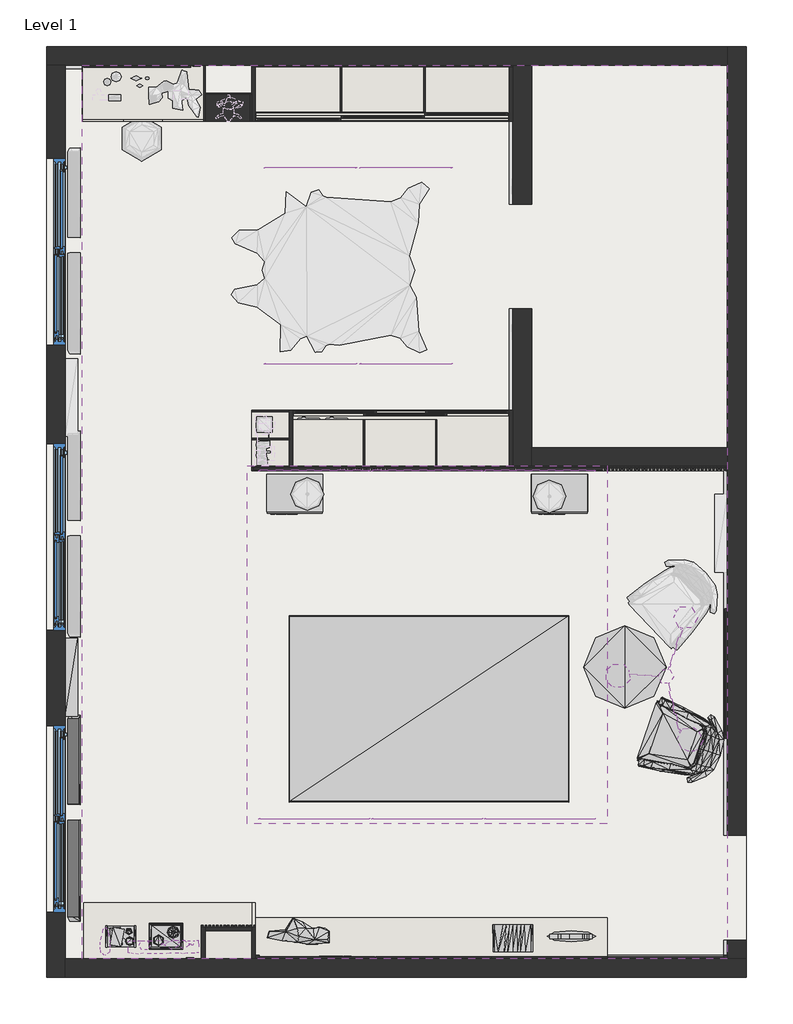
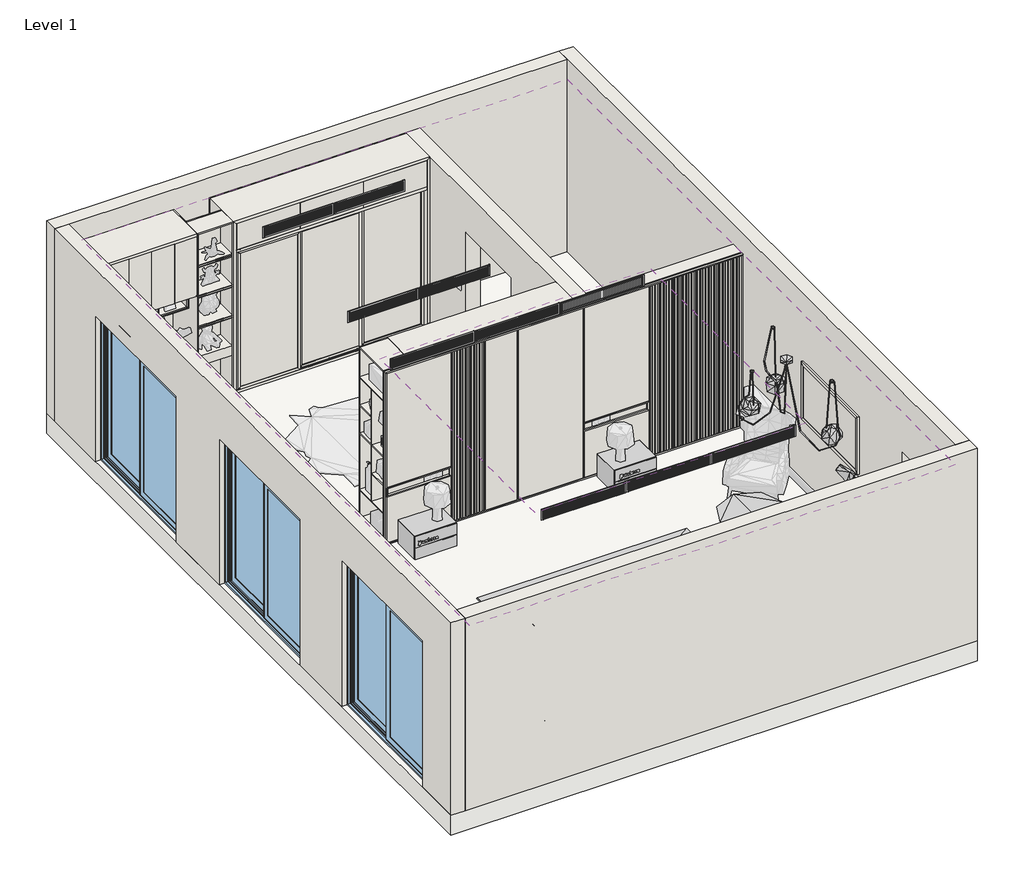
# One storey, part 1 of 3: 22 geographic elements, 11 proxies, 7 walls, 3 windows, 2 coverings, 1 furniture element, 1 slab.
"""IFC4 building model written with IfcOpenShell, lengths in millimetres."""

from ifc_helpers import new_model, si_unit, frame, origin, origin_with_axes, place, context, project, spatial, polyline, outline, extrude, faceted_brep, transform, mapped, element, save
from components import generic_models_adb6d911, inlet_grid_ga15_f24b3901, inlet_grid_ga15_04165da6, inlet_grid_ga15_2_3eb42ee2, inlet_grid_ga15_2_d9a18460, furniture_1_furniture_1_7f8864ea, geographic_element_60de37d3, geographic_element_de3b21ac, geographic_element_d5cf713a, geographic_element_6166db94, geographic_element_e5f93e43, geographic_element_2e74eb4a, enscape_assetdefinition_armchair_14_enscape_assetdefinition_c5dd8c47, enscape_assetdefinition_books_11_2_enscape_assetdefinition_afcb8159, enscape_assetdefinition_curtain_09_1_enscape_assetdefinition_daeb34b5, enscape_assetdefinition_heater_1_enscape_assetdefinition_d009f5ff, enscape_assetdefinition_interior_plant_63_enscape_0fecf210, enscape_assetdefinition_light_switch_02_1_enscape_37d4c2cf, enscape_assetdefinition_open_book_enscape_assetdefinition_e06b1bfc, enscape_assetdefinition_pendant_lamp_33_1_enscape_d2cf4ff0, enscape_assetdefinition_power_socket_1_enscape_57b8c8f3, enscape_assetdefinition_round_side_table_07_1_enscape_1fe8cf10, enscape_assetdefinition_rug_08_enscape_assetdefinition_rug_6e1646d1, walls_1_walls_1_83899cc1, walls_1_walls_1_9100b498, walls_1_walls_1_aaefc54a, window_d831f5fb

model = new_model("IFC4")

# Units and contexts
model_context = context("Model", 3, world=origin())
ifc_project = project(units=[si_unit("LENGTHUNIT", "METRE", prefix="MILLI")], contexts=[model_context])

# Site, building, storey
site = spatial("IfcSite", under=ifc_project)
building = spatial("IfcBuilding", under=site)
storey = spatial("IfcBuildingStorey", under=building, Name="Level 1", Elevation=0.0)

# Proxies
placement = place(None, origin())
generic_models_shape = generic_models_adb6d911(model_context)
element("IfcBuildingElementProxy", 1, Name="ArcPro Statue : ArcPro Statue", ObjectType="ArcPro Statue : ArcPro Statue", at=placement, inside=storey, context=model_context, shape_type="MappedRepresentation", body=[
    mapped(generic_models_shape, transform((857.42874, -3295.4231126, 606.0), x_axis=(-1.0, 0.0, 0.0), y_axis=(0.0, -1.0, 0.0), z_axis=(0.0, 0.0, 1.0))),
])
inlet_grid_ga15_shape = inlet_grid_ga15_f24b3901(model_context)
element("IfcBuildingElementProxy", 2, Name="HVAC_Accessories_Emmeti_Grid-GA : Inlet grid - GA15", ObjectType="HVAC_Accessories_Emmeti_Grid-GA : Inlet grid - GA15", at=placement, inside=storey, context=model_context, shape_type="MappedRepresentation", body=[
    mapped(inlet_grid_ga15_shape, transform((-2262.57126, 1697.5768874, 2615.0), x_axis=(-1.0, 0.0, 0.0), y_axis=(0.0, -1.0, 0.0), z_axis=(0.0, 0.0, 1.0))),
])
element("IfcBuildingElementProxy", 3, Name="HVAC_Accessories_Emmeti_Grid-GA : Inlet grid - GA15", ObjectType="HVAC_Accessories_Emmeti_Grid-GA : Inlet grid - GA15", at=placement, inside=storey, context=model_context, shape_type="MappedRepresentation", body=[
    mapped(inlet_grid_ga15_shape, transform((-1052.57126, 1697.5768874, 2615.0), x_axis=(-1.0, 0.0, 0.0), y_axis=(0.0, -1.0, 0.0), z_axis=(0.0, 0.0, 1.0))),
])
element("IfcBuildingElementProxy", 4, Name="HVAC_Accessories_Emmeti_Grid-GA : Inlet grid - GA15", ObjectType="HVAC_Accessories_Emmeti_Grid-GA : Inlet grid - GA15", at=placement, inside=storey, context=model_context, shape_type="MappedRepresentation", body=[
    mapped(inlet_grid_ga15_shape, transform((157.42874, 1697.5768874, 2615.0), x_axis=(-1.0, 0.0, 0.0), y_axis=(0.0, -1.0, 0.0), z_axis=(0.0, 0.0, 1.0))),
])
inlet_grid_ga15_2_shape = inlet_grid_ga15_04165da6(model_context)
element("IfcBuildingElementProxy", 5, Name="HVAC_Accessories_Emmeti_Grid-GA : Inlet grid - GA15", ObjectType="HVAC_Accessories_Emmeti_Grid-GA : Inlet grid - GA15", at=placement, inside=storey, context=model_context, shape_type="MappedRepresentation", body=[
    mapped(inlet_grid_ga15_2_shape, transform((-2262.57126, -2034.4231126, 2615.0), x_axis=(-1.0, 0.0, 0.0), y_axis=(0.0, -1.0, 0.0), z_axis=(0.0, 0.0, 1.0))),
])
element("IfcBuildingElementProxy", 6, Name="HVAC_Accessories_Emmeti_Grid-GA : Inlet grid - GA15", ObjectType="HVAC_Accessories_Emmeti_Grid-GA : Inlet grid - GA15", at=placement, inside=storey, context=model_context, shape_type="MappedRepresentation", body=[
    mapped(inlet_grid_ga15_2_shape, transform((-1052.57126, -2034.4231126, 2615.0), x_axis=(-1.0, 0.0, 0.0), y_axis=(0.0, -1.0, 0.0), z_axis=(0.0, 0.0, 1.0))),
])
element("IfcBuildingElementProxy", 7, Name="HVAC_Accessories_Emmeti_Grid-GA : Inlet grid - GA15", ObjectType="HVAC_Accessories_Emmeti_Grid-GA : Inlet grid - GA15", at=placement, inside=storey, context=model_context, shape_type="MappedRepresentation", body=[
    mapped(inlet_grid_ga15_2_shape, transform((157.42874, -2034.4231126, 2615.0), x_axis=(-1.0, 0.0, 0.0), y_axis=(0.0, -1.0, 0.0), z_axis=(0.0, 0.0, 1.0))),
])
inlet_grid_ga15_2_2_shape = inlet_grid_ga15_2_3eb42ee2(model_context)
element("IfcBuildingElementProxy", 8, Name="HVAC_Accessories_Emmeti_Grid-GA : Inlet grid - GA15 2", ObjectType="HVAC_Accessories_Emmeti_Grid-GA : Inlet grid - GA15 2", at=placement, inside=storey, context=model_context, shape_type="MappedRepresentation", body=[
    mapped(inlet_grid_ga15_2_2_shape, transform((-2202.57126, 4943.5768874, 2615.0), x_axis=(-1.0, 0.0, 0.0), y_axis=(0.0, -1.0, 0.0), z_axis=(0.0, 0.0, 1.0))),
])
element("IfcBuildingElementProxy", 9, Name="HVAC_Accessories_Emmeti_Grid-GA : Inlet grid - GA15 2", ObjectType="HVAC_Accessories_Emmeti_Grid-GA : Inlet grid - GA15 2", at=placement, inside=storey, context=model_context, shape_type="MappedRepresentation", body=[
    mapped(inlet_grid_ga15_2_2_shape, transform((-1180.07126, 4943.5768874, 2615.0), x_axis=(-1.0, 0.0, 0.0), y_axis=(0.0, -1.0, 0.0), z_axis=(0.0, 0.0, 1.0))),
])
inlet_grid_ga15_2_3_shape = inlet_grid_ga15_2_d9a18460(model_context)
element("IfcBuildingElementProxy", 10, Name="HVAC_Accessories_Emmeti_Grid-GA : Inlet grid - GA15 2", ObjectType="HVAC_Accessories_Emmeti_Grid-GA : Inlet grid - GA15 2", at=placement, inside=storey, context=model_context, shape_type="MappedRepresentation", body=[
    mapped(inlet_grid_ga15_2_3_shape, transform((-2202.57126, 2845.5768874, 2615.0), x_axis=(-1.0, 0.0, 0.0), y_axis=(0.0, -1.0, 0.0), z_axis=(0.0, 0.0, 1.0))),
])
element("IfcBuildingElementProxy", 11, Name="HVAC_Accessories_Emmeti_Grid-GA : Inlet grid - GA15 2", ObjectType="HVAC_Accessories_Emmeti_Grid-GA : Inlet grid - GA15 2", at=placement, inside=storey, context=model_context, shape_type="MappedRepresentation", body=[
    mapped(inlet_grid_ga15_2_3_shape, transform((-1180.07126, 2845.5768874, 2615.0), x_axis=(-1.0, 0.0, 0.0), y_axis=(0.0, -1.0, 0.0), z_axis=(0.0, 0.0, 1.0))),
])

# Coverings
element("IfcCovering", 12, ObjectType="600 x 1200mm Grid", at=placement, inside=storey, context=model_context, shape_type="Brep", body=[
    faceted_brep([(-4448.57126, 6044.5768874, 2652.0), (-4448.57126, -3535.4231126, 2652.0), (2467.42874, -3535.4231126, 2652.0), (2467.42874, 6044.5768874, 2652.0), (1127.42874, 1698.5768874, 2652.0), (1127.42874, -2035.4231126, 2652.0), (1057.42874, -2035.4231126, 2652.0), (1057.42874, -2085.4231126, 2652.0), (-142.57126, -2085.4231126, 2652.0), (-142.57126, -2035.4231126, 2652.0), (-152.57126, -2035.4231126, 2652.0), (-152.57126, -2085.4231126, 2652.0), (-1352.57126, -2085.4231126, 2652.0), (-1352.57126, -2035.4231126, 2652.0), (-1362.57126, -2035.4231126, 2652.0), (-1362.57126, -2085.4231126, 2652.0), (-2562.57126, -2085.4231126, 2652.0), (-2562.57126, -2035.4231126, 2652.0), (-2632.57126, -2035.4231126, 2652.0), (-2632.57126, 1698.5768874, 2652.0), (-2562.57126, 1698.5768874, 2652.0), (-2562.57126, 1748.5768874, 2652.0), (-1362.57126, 1748.5768874, 2652.0), (-1362.57126, 1698.5768874, 2652.0), (-1352.57126, 1698.5768874, 2652.0), (-1352.57126, 1748.5768874, 2652.0), (-152.57126, 1748.5768874, 2652.0), (-152.57126, 1698.5768874, 2652.0), (-142.57126, 1698.5768874, 2652.0), (-142.57126, 1748.5768874, 2652.0), (1057.42874, 1748.5768874, 2652.0), (1057.42874, 1698.5768874, 2652.0), (-2632.57126, 2844.5768874, 2652.0), (-2632.57126, 4944.5768874, 2652.0), (-2502.57126, 4944.5768874, 2652.0), (-2502.57126, 4994.5768874, 2652.0), (-1502.57126, 4994.5768874, 2652.0), (-1502.57126, 4944.5768874, 2652.0), (-1480.07126, 4944.5768874, 2652.0), (-1480.07126, 4994.5768874, 2652.0), (-480.07126, 4994.5768874, 2652.0), (-480.07126, 4944.5768874, 2652.0), (-332.57126, 4944.5768874, 2652.0), (-332.57126, 2844.5768874, 2652.0), (-480.07126, 2844.5768874, 2652.0), (-480.07126, 2794.5768874, 2652.0), (-1480.07126, 2794.5768874, 2652.0), (-1480.07126, 2844.5768874, 2652.0), (-1502.57126, 2844.5768874, 2652.0), (-1502.57126, 2794.5768874, 2652.0), (-2502.57126, 2794.5768874, 2652.0), (-2502.57126, 2844.5768874, 2652.0), (-4448.57126, -3535.4231126, 2600.0), (-4448.57126, 6044.5768874, 2600.0), (2467.42874, 6044.5768874, 2600.0), (2467.42874, -3535.4231126, 2600.0), (1127.42874, 1698.5768874, 2600.0), (-2632.57126, 1698.5768874, 2600.0), (-2632.57126, -2035.4231126, 2600.0), (1127.42874, -2035.4231126, 2600.0), (-2632.57126, 4944.5768874, 2600.0), (-2632.57126, 2844.5768874, 2600.0), (-332.57126, 2844.5768874, 2600.0), (-332.57126, 4944.5768874, 2600.0), (-3510.4896736, 4944.5768874, 2600.0), (-3519.4896736, 4944.5768874, 2600.0), (-3551.4896736, 4944.5768874, 2600.0), (-3560.4896736, 4944.5768874, 2600.0), (-3560.4896736, -2818.1015747, 2600.0), (1127.42874, -2818.1015747, 2600.0), (1127.42874, -2809.1015747, 2600.0), (1127.42874, -2777.1015747, 2600.0), (1127.42874, -2768.1015747, 2600.0), (-3510.4896736, -2768.1015747, 2600.0), (1057.42874, 1698.5768874, 2615.0), (-142.57126, 1698.5768874, 2615.0), (-152.57126, 1698.5768874, 2615.0), (-1352.57126, 1698.5768874, 2615.0), (-1362.57126, 1698.5768874, 2615.0), (-2562.57126, 1698.5768874, 2615.0), (-2562.57126, -2035.4231126, 2615.0), (-1362.57126, -2035.4231126, 2615.0), (-1352.57126, -2035.4231126, 2615.0), (-152.57126, -2035.4231126, 2615.0), (-142.57126, -2035.4231126, 2615.0), (1057.42874, -2035.4231126, 2615.0), (-480.07126, 4944.5768874, 2615.0), (-1480.07126, 4944.5768874, 2615.0), (-1502.57126, 4944.5768874, 2615.0), (-2502.57126, 4944.5768874, 2615.0), (-2502.57126, 2844.5768874, 2615.0), (-1502.57126, 2844.5768874, 2615.0), (-1480.07126, 2844.5768874, 2615.0), (-480.07126, 2844.5768874, 2615.0), (-1480.07126, 4994.5768874, 2615.0), (-480.07126, 4994.5768874, 2615.0), (-2502.57126, 4994.5768874, 2615.0), (-1502.57126, 4994.5768874, 2615.0), (-480.07126, 2794.5768874, 2615.0), (-1480.07126, 2794.5768874, 2615.0), (-1502.57126, 2794.5768874, 2615.0), (-2502.57126, 2794.5768874, 2615.0), (-142.57126, 1748.5768874, 2615.0), (1057.42874, 1748.5768874, 2615.0), (-1352.57126, 1748.5768874, 2615.0), (-152.57126, 1748.5768874, 2615.0), (-2562.57126, 1748.5768874, 2615.0), (-1362.57126, 1748.5768874, 2615.0), (1057.42874, -2085.4231126, 2615.0), (-142.57126, -2085.4231126, 2615.0), (-152.57126, -2085.4231126, 2615.0), (-1352.57126, -2085.4231126, 2615.0), (-1362.57126, -2085.4231126, 2615.0), (-2562.57126, -2085.4231126, 2615.0), (-3510.4896736, 4944.5768874, 2630.0), (-3510.4896736, -2768.1015747, 2630.0), (1127.42874, -2768.1015747, 2630.0), (1127.42874, -2818.1015747, 2630.0), (-3560.4896736, -2818.1015747, 2630.0), (-3560.4896736, 4944.5768874, 2630.0)], [[[0, 1, 2, 3], [4, 5, 6, 7, 8, 9, 10, 11, 12, 13, 14, 15, 16, 17, 18, 19, 20, 21, 22, 23, 24, 25, 26, 27, 28, 29, 30, 31], [32, 33, 34, 35, 36, 37, 38, 39, 40, 41, 42, 43, 44, 45, 46, 47, 48, 49, 50, 51]], [[52, 53, 54, 55], [56, 57, 58, 59], [60, 61, 62, 63], [64, 65, 66, 67, 68, 69, 70, 71, 72, 73]], [[1, 0, 53, 52]], [[2, 1, 52, 55]], [[3, 2, 55, 54]], [[0, 3, 54, 53]], [[57, 56, 4, 31, 74, 75, 28, 27, 76, 77, 24, 23, 78, 79, 20, 19]], [[5, 4, 56, 59]], [[59, 58, 18, 17, 80, 81, 14, 13, 82, 83, 10, 9, 84, 85, 6, 5]], [[19, 18, 58, 57]], [[33, 32, 61, 60]], [[60, 63, 42, 41, 86, 87, 38, 37, 88, 89, 34, 33]], [[43, 42, 63, 62]], [[62, 61, 32, 51, 90, 91, 48, 47, 92, 93, 44, 43]], [[94, 95, 40, 39]], [[96, 97, 36, 35]], [[98, 99, 46, 45]], [[100, 101, 50, 49]], [[95, 94, 87, 86]], [[99, 98, 93, 92]], [[94, 39, 38, 87]], [[46, 99, 92, 47]], [[40, 95, 86, 41]], [[98, 45, 44, 93]], [[97, 96, 89, 88]], [[101, 100, 91, 90]], [[96, 35, 34, 89]], [[50, 101, 90, 51]], [[36, 97, 88, 37]], [[100, 49, 48, 91]], [[102, 103, 30, 29]], [[104, 105, 26, 25]], [[106, 107, 22, 21]], [[108, 109, 8, 7]], [[110, 111, 12, 11]], [[112, 113, 16, 15]], [[103, 102, 75, 74]], [[109, 108, 85, 84]], [[102, 29, 28, 75]], [[8, 109, 84, 9]], [[30, 103, 74, 31]], [[108, 7, 6, 85]], [[105, 104, 77, 76]], [[111, 110, 83, 82]], [[104, 25, 24, 77]], [[12, 111, 82, 13]], [[26, 105, 76, 27]], [[110, 11, 10, 83]], [[22, 107, 78, 23]], [[112, 15, 14, 81]], [[107, 106, 79, 78]], [[113, 112, 81, 80]], [[106, 21, 20, 79]], [[16, 113, 80, 17]], [[114, 115, 116, 117, 118, 119]], [[114, 119, 67, 66, 65, 64]], [[119, 118, 68, 67]], [[118, 117, 69, 68]], [[117, 116, 72, 71, 70, 69]], [[116, 115, 73, 72]], [[115, 114, 64, 73]]]),
])
element("IfcCovering", 13, ObjectType="600 x 1200mm Grid", at=placement, inside=storey, context=model_context, shape_type="Brep", body=[
    faceted_brep([(-2682.57126, 4994.5768874, 2852.0), (-2682.57126, 2794.5768874, 2852.0), (-282.57126, 2794.5768874, 2852.0), (-282.57126, 4994.5768874, 2852.0), (-2682.57126, 2794.5768874, 2800.0), (-2682.57126, 4994.5768874, 2800.0), (-282.57126, 4994.5768874, 2800.0), (-282.57126, 2794.5768874, 2800.0), (-832.57126, 3344.5768874, 2800.0), (-832.57126, 4444.5768874, 2800.0), (-2132.57126, 4444.5768874, 2800.0), (-2132.57126, 3344.5768874, 2800.0), (-882.57126, 4394.5768874, 2800.0), (-882.57126, 3394.5768874, 2800.0), (-2082.57126, 3394.5768874, 2800.0), (-2082.57126, 4394.5768874, 2800.0), (-832.57126, 4444.5768874, 2830.0), (-832.57126, 3344.5768874, 2830.0), (-2132.57126, 3344.5768874, 2830.0), (-2132.57126, 4444.5768874, 2830.0), (-882.57126, 3394.5768874, 2830.0), (-882.57126, 4394.5768874, 2830.0), (-2082.57126, 4394.5768874, 2830.0), (-2082.57126, 3394.5768874, 2830.0)], [[[0, 1, 2, 3]], [[4, 5, 6, 7], [8, 9, 10, 11]], [[12, 13, 14, 15]], [[1, 0, 5, 4]], [[2, 1, 4, 7]], [[3, 2, 7, 6]], [[0, 3, 6, 5]], [[16, 17, 18, 19], [20, 21, 22, 23]], [[17, 16, 9, 8]], [[18, 17, 8, 11]], [[19, 18, 11, 10]], [[16, 19, 10, 9]], [[21, 20, 13, 12]], [[22, 21, 12, 15]], [[23, 22, 15, 14]], [[20, 23, 14, 13]]]),
    faceted_brep([(-2682.57126, -2085.4231126, 2852.0), (1177.42874, -2085.4231126, 2852.0), (1177.42874, 1748.5768874, 2852.0), (-2682.57126, 1748.5768874, 2852.0), (1177.42874, -2085.4231126, 2800.0), (-2682.57126, -2085.4231126, 2800.0), (-2682.57126, 1748.5768874, 2800.0), (1177.42874, 1748.5768874, 2800.0), (527.42874, -1435.4231126, 2800.0), (527.42874, 1098.5768874, 2800.0), (-2032.57126, 1098.5768874, 2800.0), (-2032.57126, -1435.4231126, 2800.0), (-1982.57126, 1048.5768874, 2800.0), (477.42874, 1048.5768874, 2800.0), (477.42874, -1385.4231126, 2800.0), (-1982.57126, -1385.4231126, 2800.0), (527.42874, 1098.5768874, 2830.0), (527.42874, -1435.4231126, 2830.0), (-2032.57126, -1435.4231126, 2830.0), (-2032.57126, 1098.5768874, 2830.0), (477.42874, 1048.5768874, 2830.0), (-1982.57126, 1048.5768874, 2830.0), (-1982.57126, -1385.4231126, 2830.0), (477.42874, -1385.4231126, 2830.0)], [[[0, 1, 2, 3]], [[4, 5, 6, 7], [8, 9, 10, 11]], [[12, 13, 14, 15]], [[1, 0, 5, 4]], [[2, 1, 4, 7]], [[3, 2, 7, 6]], [[0, 3, 6, 5]], [[16, 17, 18, 19], [20, 21, 22, 23]], [[17, 16, 9, 8]], [[18, 17, 8, 11]], [[19, 18, 11, 10]], [[16, 19, 10, 9]], [[21, 20, 13, 12]], [[22, 21, 12, 15]], [[23, 22, 15, 14]], [[20, 23, 14, 13]]]),
])

# Furniture
furniture_1_furniture_1_shape = furniture_1_furniture_1_7f8864ea(model_context)
element("IfcFurniture", 14, ObjectType="Furniture 1 : Furniture 1", at=placement, inside=storey, context=model_context, shape_type="MappedRepresentation", body=[
    mapped(furniture_1_furniture_1_shape, transform((-100.0, 0.0, 0.0), x_axis=(1.0, 0.0, 0.0), y_axis=(0.0, 1.0, 0.0), z_axis=(0.0, 0.0, 1.0))),
])

# Geographic elements
geographic_element_shape = geographic_element_60de37d3(model_context)
element("IfcGeographicElement", 15, ObjectType="Enscape AssetDefinition - Candle Tray 02 1 : Enscape AssetDefinition - Candle Tray 02 1", at=placement, inside=storey, context=model_context, shape_type="MappedRepresentation", body=[
    mapped(geographic_element_shape, transform((-3552.57126, -3295.4231126, 900.0), x_axis=(1.0, 0.0, 0.0), y_axis=(0.0, 1.0, 0.0), z_axis=(0.0, 0.0, 1.0))),
])
geographic_element_2_shape = geographic_element_de3b21ac(model_context)
element("IfcGeographicElement", 16, ObjectType="Enscape AssetDefinition - Decoration Collection 02 1 : Enscape AssetDefinition - Decoration Collection 02 1", at=placement, inside=storey, context=model_context, shape_type="MappedRepresentation", body=[
    mapped(geographic_element_2_shape, transform((-4037.57126, -3295.4231126, 900.0), x_axis=(1.0, 0.0, 0.0), y_axis=(0.0, 1.0, 0.0), z_axis=(0.0, 0.0, 1.0))),
])
geographic_element_3_shape = geographic_element_d5cf713a(model_context)
element("IfcGeographicElement", 17, ObjectType="Enscape AssetDefinition - Frog 1 : Enscape AssetDefinition - Frog 1", at=placement, inside=storey, context=model_context, shape_type="MappedRepresentation", body=[
    mapped(geographic_element_3_shape, transform((-3116.4678316, -3060.309155, 350.0), x_axis=(-1.0, 0.0, 0.0), y_axis=(0.0, -1.0, 0.0), z_axis=(0.0, 0.0, 1.0))),
])
geographic_element_4_shape = geographic_element_6166db94(model_context)
element("IfcGeographicElement", 18, ObjectType="Enscape AssetDefinition - Pineapple 1 : Enscape AssetDefinition - Pineapple 1", at=placement, inside=storey, context=model_context, shape_type="MappedRepresentation", body=[
    mapped(geographic_element_4_shape, transform((-3782.5712606, -3390.4231116, 1466.7), x_axis=(1.0, 0.0, 0.0), y_axis=(0.0, 1.0, 0.0), z_axis=(0.0, 0.0, 1.0))),
])
geographic_element_5_shape = geographic_element_e5f93e43(model_context)
element("IfcGeographicElement", 19, ObjectType="Enscape AssetDefinition - Sculpture, Cats 1 : Enscape AssetDefinition - Sculpture, Cats 1", at=placement, inside=storey, context=model_context, shape_type="MappedRepresentation", body=[
    mapped(geographic_element_5_shape, transform((-3429.2530914, -3381.5455177, 1466.7), x_axis=(1.0, 0.0, 0.0), y_axis=(0.0, 1.0, 0.0), z_axis=(0.0, 0.0, 1.0))),
])
geographic_element_6_shape = geographic_element_2e74eb4a(model_context)
element("IfcGeographicElement", 20, ObjectType="Enscape AssetDefinition - Sculpture, Bears 1 : Enscape AssetDefinition - Sculpture, Bears 1", at=placement, inside=storey, context=model_context, shape_type="MappedRepresentation", body=[
    mapped(geographic_element_6_shape, transform((-4150.9832927, -3354.3929378, 1466.7), x_axis=(-1.0, 0.0, 0.0), y_axis=(0.0, -1.0, 0.0), z_axis=(0.0, 0.0, 1.0))),
])
enscape_assetdefinition_armchair_14_enscape_assetdefinition_shape = enscape_assetdefinition_armchair_14_enscape_assetdefinition_c5dd8c47(model_context)
element("IfcGeographicElement", 21, ObjectType="Enscape AssetDefinition - Armchair 14 : Enscape AssetDefinition - Armchair 14", at=placement, inside=storey, context=model_context, shape_type="MappedRepresentation", body=[
    mapped(enscape_assetdefinition_armchair_14_enscape_assetdefinition_shape, transform((1987.2510686, -1218.393207, 0.0), x_axis=(-0.3229217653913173, -0.9464256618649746, 0.0), y_axis=(0.9464256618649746, -0.3229217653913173, 0.0), z_axis=(0.0, 0.0, 1.0))),
])
enscape_assetdefinition_books_11_2_enscape_assetdefinition_shape = enscape_assetdefinition_books_11_2_enscape_assetdefinition_afcb8159(model_context)
element("IfcGeographicElement", 22, ObjectType="Enscape AssetDefinition - Books 11 2 : Enscape AssetDefinition - Books 11 2", at=placement, inside=storey, context=model_context, shape_type="MappedRepresentation", body=[
    mapped(enscape_assetdefinition_books_11_2_enscape_assetdefinition_shape, transform((-3572.57126, -3410.4231126, 2033.3), x_axis=(-1.0, 0.0, 0.0), y_axis=(0.0, -1.0, 0.0), z_axis=(0.0, 0.0, 1.0))),
])
enscape_assetdefinition_curtain_09_1_enscape_assetdefinition_shape = enscape_assetdefinition_curtain_09_1_enscape_assetdefinition_daeb34b5(model_context)
element("IfcGeographicElement", 23, ObjectType="Enscape AssetDefinition - Curtain 09 1 : Enscape AssetDefinition - Curtain 09 1", at=placement, inside=storey, context=model_context, shape_type="MappedRepresentation", body=[
    mapped(enscape_assetdefinition_curtain_09_1_enscape_assetdefinition_shape, transform((-4632.57126, -2035.4231126, 0.0), x_axis=(0.0, 1.0, 0.0), y_axis=(-1.0, 0.0, 0.0), z_axis=(0.0, 0.0, 1.0))),
])
enscape_assetdefinition_heater_1_enscape_assetdefinition_shape = enscape_assetdefinition_heater_1_enscape_assetdefinition_d009f5ff(model_context)
element("IfcGeographicElement", 24, ObjectType="Enscape AssetDefinition - Heater 1 : Enscape AssetDefinition - Heater 1", at=placement, inside=storey, context=model_context, shape_type="MappedRepresentation", body=[
    mapped(enscape_assetdefinition_heater_1_enscape_assetdefinition_shape, transform((-4632.57126, -515.4231126, 0.0), x_axis=(0.0, 1.0, 0.0), y_axis=(-1.0, 0.0, 0.0), z_axis=(0.0, 0.0, 1.0))),
])
enscape_assetdefinition_interior_plant_63_enscape_shape = enscape_assetdefinition_interior_plant_63_enscape_0fecf210(model_context)
element("IfcGeographicElement", 25, ObjectType="Enscape AssetDefinition - Interior Plant 63 : Enscape AssetDefinition - Interior Plant 63", at=placement, inside=storey, context=model_context, shape_type="MappedRepresentation", body=[
    mapped(enscape_assetdefinition_interior_plant_63_enscape_shape, transform((-1972.57126, -3295.4231126, 606.0), x_axis=(-1.0, 0.0, 0.0), y_axis=(0.0, -1.0, 0.0), z_axis=(0.0, 0.0, 1.0))),
])
enscape_assetdefinition_light_switch_02_1_enscape_shape = enscape_assetdefinition_light_switch_02_1_enscape_37d4c2cf(model_context)
element("IfcGeographicElement", 26, ObjectType="Enscape AssetDefinition - Light Switch 02 1 : Enscape AssetDefinition - Light Switch 02 1", at=placement, inside=storey, context=model_context, shape_type="MappedRepresentation", body=[
    mapped(enscape_assetdefinition_light_switch_02_1_enscape_shape, transform((2467.42874, -2055.4231126, 0.0), x_axis=(0.0, -1.0, 0.0), y_axis=(1.0, 0.0, 0.0), z_axis=(0.0, 0.0, 1.0))),
])
element("IfcGeographicElement", 27, ObjectType="Enscape AssetDefinition - Light Switch 02 1 : Enscape AssetDefinition - Light Switch 02 1", at=placement, inside=storey, context=model_context, shape_type="MappedRepresentation", body=[
    mapped(enscape_assetdefinition_light_switch_02_1_enscape_shape, transform((-3292.57126, -3535.4231126, 1100.0), x_axis=(-1.0, 0.0, 0.0), y_axis=(0.0, -1.0, 0.0), z_axis=(0.0, 0.0, 1.0))),
])
enscape_assetdefinition_open_book_enscape_assetdefinition_shape = enscape_assetdefinition_open_book_enscape_assetdefinition_e06b1bfc(model_context)
element("IfcGeographicElement", 28, ObjectType="Enscape AssetDefinition - Open Book : Enscape AssetDefinition - Open Book", at=placement, inside=storey, context=model_context, shape_type="MappedRepresentation", body=[
    mapped(enscape_assetdefinition_open_book_enscape_assetdefinition_shape, transform((167.42874, -3315.4231126, 606.0), x_axis=(1.0, 0.0, 0.0), y_axis=(0.0, 1.0, 0.0), z_axis=(0.0, 0.0, 1.0))),
])
enscape_assetdefinition_pendant_lamp_33_1_enscape_shape = enscape_assetdefinition_pendant_lamp_33_1_enscape_d2cf4ff0(model_context)
element("IfcGeographicElement", 29, ObjectType="Enscape AssetDefinition - Pendant Lamp 33 1 : Enscape AssetDefinition - Pendant Lamp 33 1", at=placement, inside=storey, context=model_context, shape_type="MappedRepresentation", body=[
    mapped(enscape_assetdefinition_pendant_lamp_33_1_enscape_shape, transform((1807.7973724, -508.6833506, 2599.8509597), x_axis=(-0.48005920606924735, 0.8772360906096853, 0.0), y_axis=(-0.8772360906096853, -0.48005920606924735, 0.0), z_axis=(0.0, 0.0, 1.0))),
])
enscape_assetdefinition_power_socket_1_enscape_shape = enscape_assetdefinition_power_socket_1_enscape_57b8c8f3(model_context)
element("IfcGeographicElement", 30, ObjectType="Enscape AssetDefinition - Power Socket 1 : Enscape AssetDefinition - Power Socket 1", at=placement, inside=storey, context=model_context, shape_type="MappedRepresentation", body=[
    mapped(enscape_assetdefinition_power_socket_1_enscape_shape, transform((2467.42874, -2055.4231126, 0.0), x_axis=(0.0, -1.0, 0.0), y_axis=(1.0, 0.0, 0.0), z_axis=(0.0, 0.0, 1.0))),
])
element("IfcGeographicElement", 31, ObjectType="Enscape AssetDefinition - Power Socket 1 : Enscape AssetDefinition - Power Socket 1", at=placement, inside=storey, context=model_context, shape_type="MappedRepresentation", body=[
    mapped(enscape_assetdefinition_power_socket_1_enscape_shape, transform((-1606.4940688, -3515.4231126, 670.0), x_axis=(-1.0, 0.0, 0.0), y_axis=(0.0, -1.0, 0.0), z_axis=(0.0, 0.0, 1.0))),
])
element("IfcGeographicElement", 32, ObjectType="Enscape AssetDefinition - Power Socket 1 : Enscape AssetDefinition - Power Socket 1", at=placement, inside=storey, context=model_context, shape_type="MappedRepresentation", body=[
    mapped(enscape_assetdefinition_power_socket_1_enscape_shape, transform((-1696.4940688, -3515.4231126, 670.0), x_axis=(-1.0, 0.0, 0.0), y_axis=(0.0, -1.0, 0.0), z_axis=(0.0, 0.0, 1.0))),
])
element("IfcGeographicElement", 33, ObjectType="Enscape AssetDefinition - Power Socket 1 : Enscape AssetDefinition - Power Socket 1", at=placement, inside=storey, context=model_context, shape_type="MappedRepresentation", body=[
    mapped(enscape_assetdefinition_power_socket_1_enscape_shape, transform((-1782.7440688, -3515.4231126, 670.0), x_axis=(-1.0, 0.0, 0.0), y_axis=(0.0, -1.0, 0.0), z_axis=(0.0, 0.0, 1.0))),
])
element("IfcGeographicElement", 34, ObjectType="Enscape AssetDefinition - Power Socket 1 : Enscape AssetDefinition - Power Socket 1", at=placement, inside=storey, context=model_context, shape_type="MappedRepresentation", body=[
    mapped(enscape_assetdefinition_power_socket_1_enscape_shape, transform((-1868.9940688, -3515.4231126, 670.0), x_axis=(-1.0, 0.0, 0.0), y_axis=(0.0, -1.0, 0.0), z_axis=(0.0, 0.0, 1.0))),
])
enscape_assetdefinition_round_side_table_07_1_enscape_shape = enscape_assetdefinition_round_side_table_07_1_enscape_1fe8cf10(model_context)
element("IfcGeographicElement", 35, ObjectType="Enscape AssetDefinition - Round Side Table 07 1 : Enscape AssetDefinition - Round Side Table 07 1", at=placement, inside=storey, context=model_context, shape_type="MappedRepresentation", body=[
    mapped(enscape_assetdefinition_round_side_table_07_1_enscape_shape, transform((1366.8947397, -407.4306131, 0.0), x_axis=(1.0, 0.0, 0.0), y_axis=(0.0, 1.0, 0.0), z_axis=(0.0, 0.0, 1.0))),
])
enscape_assetdefinition_rug_08_enscape_assetdefinition_rug_shape = enscape_assetdefinition_rug_08_enscape_assetdefinition_rug_6e1646d1(model_context)
element("IfcGeographicElement", 36, ObjectType="Enscape AssetDefinition - Rug 08 : Enscape AssetDefinition - Rug 08", at=placement, inside=storey, context=model_context, shape_type="MappedRepresentation", body=[
    mapped(enscape_assetdefinition_rug_08_enscape_assetdefinition_rug_shape, transform((-732.57126, -855.4231126, 0.0), x_axis=(0.0, 1.0, 0.0), y_axis=(-1.0, 0.0, 0.0), z_axis=(0.0, 0.0, 1.0))),
])

# Slab
element("IfcSlab", 37, ObjectType="Generic 150mm", at=placement, inside=storey, context=model_context, shape_type="SweptSolid", body=[
    extrude(outline(polyline([(2667.42874, 6244.5768874), (2667.42874, -3735.4231126), (-4832.57126, -3735.4231126), (-4832.57126, 6244.5768874), (2667.42874, 6244.5768874)])), frame((0.0, 0.0, -300.0), z_axis=(0.0, 0.0, 1.0), x_axis=(1.0, 0.0, 0.0)), (0.0, 0.0, 1.0), 300.0),
])

# Walls
element("IfcWall", 38, ObjectType="Generic - 200mm", at=placement, inside=storey, context=model_context, shape_type="Brep", body=[
    faceted_brep([(-4832.57126, 6044.5768874, 0.0), (-4632.57126, 6044.5768874, 0.0), (167.42874, 6044.5768874, 0.0), (367.42874, 6044.5768874, 0.0), (2467.42874, 6044.5768874, 0.0), (2467.42874, 6044.5768874, 2900.0), (-4632.57126, 6044.5768874, 2900.0), (-4832.57126, 6044.5768874, 2900.0), (-4832.57126, 6244.5768874, 0.0), (-4832.57126, 6244.5768874, 2900.0), (2467.42874, 6244.5768874, 2900.0), (2467.42874, 6244.5768874, 0.0)], [[[0, 1, 2, 3, 4, 5, 6, 7]], [[8, 9, 10, 11]], [[4, 3, 2, 1, 0, 8, 11]], [[0, 7, 9, 8]], [[5, 4, 11, 10]], [[7, 6, 5, 10, 9]]]),
])
element("IfcWall", 39, ObjectType="Generic - 200mm", at=placement, inside=storey, context=model_context, shape_type="Brep", body=[
    faceted_brep([(-4632.57126, -3735.4231126, 2900.0), (-4632.57126, -3735.4231126, 0.0), (-4632.57126, -3535.4231126, 0.0), (-4632.57126, -3035.4231126, 0.0), (-4632.57126, -3035.4231126, 2200.0), (-4632.57126, -1035.4231126, 2200.0), (-4632.57126, -1035.4231126, 0.0), (-4632.57126, -15.4231126, 0.0), (-4632.57126, -15.4231126, 2200.0), (-4632.57126, 1984.5768874, 2200.0), (-4632.57126, 1984.5768874, 0.0), (-4632.57126, 3044.5768874, 0.0), (-4632.57126, 3044.5768874, 2200.0), (-4632.57126, 5044.5768874, 2200.0), (-4632.57126, 5044.5768874, 0.0), (-4632.57126, 6044.5768874, 0.0), (-4632.57126, 6044.5768874, 2900.0), (-4632.57126, -3535.4231126, 2900.0), (-4832.57126, -3735.4231126, 0.0), (-4832.57126, -3735.4231126, 2900.0), (-4832.57126, 6044.5768874, 2900.0), (-4832.57126, 6044.5768874, 0.0), (-4832.57126, 5044.5768874, 0.0), (-4832.57126, 5044.5768874, 2200.0), (-4832.57126, 3044.5768874, 2200.0), (-4832.57126, 3044.5768874, 0.0), (-4832.57126, 1984.5768874, 0.0), (-4832.57126, 1984.5768874, 2200.0), (-4832.57126, -15.4231126, 2200.0), (-4832.57126, -15.4231126, 0.0), (-4832.57126, -1035.4231126, 0.0), (-4832.57126, -1035.4231126, 2200.0), (-4832.57126, -3035.4231126, 2200.0), (-4832.57126, -3035.4231126, 0.0)], [[[0, 1, 2, 3, 4, 5, 6, 7, 8, 9, 10, 11, 12, 13, 14, 15, 16, 17]], [[18, 19, 20, 21, 22, 23, 24, 25, 26, 27, 28, 29, 30, 31, 32, 33]], [[1, 18, 33, 3, 2]], [[21, 15, 14, 22]], [[25, 11, 10, 26]], [[6, 30, 29, 7]], [[1, 0, 19, 18]], [[16, 15, 21, 20]], [[0, 17, 16, 20, 19]], [[24, 12, 11, 25]], [[12, 24, 23, 13]], [[13, 23, 22, 14]], [[32, 4, 3, 33]], [[4, 32, 31, 5]], [[5, 31, 30, 6]], [[28, 8, 7, 29]], [[8, 28, 27, 9]], [[9, 27, 26, 10]]]),
])
element("IfcWall", 40, ObjectType="Generic - 200mm", at=placement, inside=storey, context=model_context, shape_type="Brep", body=[
    faceted_brep([(2667.42874, -3535.4231126, 0.0), (2467.42874, -3535.4231126, 0.0), (-4632.57126, -3535.4231126, 0.0), (-4632.57126, -3535.4231126, 2900.0), (2467.42874, -3535.4231126, 2900.0), (2667.42874, -3535.4231126, 2900.0), (2667.42874, -3735.4231126, 0.0), (2667.42874, -3735.4231126, 2900.0), (-4632.57126, -3735.4231126, 2900.0), (-4632.57126, -3735.4231126, 0.0)], [[[0, 1, 2, 3, 4, 5]], [[6, 7, 8, 9]], [[2, 1, 0, 6, 9]], [[0, 5, 7, 6]], [[3, 2, 9, 8]], [[5, 4, 3, 8, 7]]]),
])
element("IfcWall", 41, ObjectType="Generic - 200mm", at=placement, inside=storey, context=model_context, shape_type="Brep", body=[
    faceted_brep([(2467.42874, 6244.5768874, 2900.0), (2467.42874, 6244.5768874, 0.0), (2467.42874, 6044.5768874, 0.0), (2467.42874, 1944.5768874, 0.0), (2467.42874, 1744.5768874, 0.0), (2467.42874, -2213.4231126, 0.0), (2467.42874, -2213.4231126, 2000.0), (2467.42874, -3335.4231126, 2000.0), (2467.42874, -3335.4231126, 0.0), (2467.42874, -3535.4231126, 0.0), (2467.42874, -3535.4231126, 2900.0), (2467.42874, 6044.5768874, 2900.0), (2667.42874, 6244.5768874, 0.0), (2667.42874, 6244.5768874, 2900.0), (2667.42874, -3535.4231126, 2900.0), (2667.42874, -3535.4231126, 0.0), (2667.42874, -3335.4231126, 0.0), (2667.42874, -3335.4231126, 2000.0), (2667.42874, -2213.4231126, 2000.0), (2667.42874, -2213.4231126, 0.0)], [[[0, 1, 2, 3, 4, 5, 6, 7, 8, 9, 10, 11]], [[12, 13, 14, 15, 16, 17, 18, 19]], [[1, 12, 19, 5, 4, 3, 2]], [[15, 9, 8, 16]], [[1, 0, 13, 12]], [[10, 9, 15, 14]], [[0, 11, 10, 14, 13]], [[7, 17, 16, 8]], [[17, 7, 6, 18]], [[18, 6, 5, 19]]]),
])
element("IfcWall", 42, ObjectType="Generic - 200mm", at=placement, inside=storey, context=model_context, shape_type="Brep", body=[
    faceted_brep([(367.42874, 6044.5768874, 2600.0), (367.42874, 1944.5768874, 2600.0), (367.42874, 1744.5768874, 2600.0), (367.42874, 1744.5768874, 0.0), (367.42874, 1944.5768874, 0.0), (367.42874, 3433.5768874, 0.0), (367.42874, 3433.5768874, 2000.0), (367.42874, 4555.5768874, 2000.0), (367.42874, 4555.5768874, 0.0), (367.42874, 6044.5768874, 0.0), (167.42874, 1744.5768874, 2600.0), (167.42874, 6044.5768874, 2600.0), (167.42874, 6044.5768874, 0.0), (167.42874, 4555.5768874, 0.0), (167.42874, 4555.5768874, 2000.0), (167.42874, 3433.5768874, 2000.0), (167.42874, 3433.5768874, 0.0), (167.42874, 1744.5768874, 0.0)], [[[0, 1, 2, 3, 4, 5, 6, 7, 8, 9]], [[10, 11, 12, 13, 14, 15, 16, 17]], [[12, 9, 8, 13]], [[3, 17, 16, 5, 4]], [[2, 1, 0, 11, 10]], [[0, 9, 12, 11]], [[3, 2, 10, 17]], [[7, 14, 13, 8]], [[14, 7, 6, 15]], [[15, 6, 5, 16]]]),
])
element("IfcWall", 43, ObjectType="Generic - 200mm", at=placement, inside=storey, context=model_context, shape_type="SweptSolid", body=[
    extrude(outline(polyline([(367.42874, 1944.5768874), (2467.42874, 1944.5768874), (2467.42874, 1744.5768874), (367.42874, 1744.5768874), (367.42874, 1944.5768874)])), origin_with_axes(), (0.0, 0.0, 1.0), 2600.0),
])
walls_1_walls_1_shape = walls_1_walls_1_83899cc1(model_context)
walls_1_walls_1_2_shape = walls_1_walls_1_9100b498(model_context)
walls_1_walls_1_3_shape = walls_1_walls_1_aaefc54a(model_context)
element("IfcWall", 44, ObjectType="Walls 1 : Walls 1", at=placement, inside=storey, context=model_context, shape_type="MappedRepresentation", body=[
    mapped(walls_1_walls_1_shape, transform((0.0, 0.0, 0.0), x_axis=(1.0, 0.0, 0.0), y_axis=(0.0, 1.0, 0.0), z_axis=(0.0, 0.0, 1.0))),
    mapped(walls_1_walls_1_2_shape, transform((0.0, 0.0, 0.0), x_axis=(1.0, 0.0, 0.0), y_axis=(0.0, 1.0, 0.0), z_axis=(0.0, 0.0, 1.0))),
    mapped(walls_1_walls_1_3_shape, transform((0.0, 0.0, 0.0), x_axis=(1.0, 0.0, 0.0), y_axis=(0.0, 1.0, 0.0), z_axis=(0.0, 0.0, 1.0))),
])

# Windows
window_shape = window_d831f5fb(model_context)
element("IfcWindow", 45, ObjectType="Windows_Opening-Slide_Exlabesa_ELEVABLE-GR-Balcony-2-Panel-Sliding : ELEVABLE_GR_2000x2000 mm Slide", at=placement, inside=storey, context=model_context, shape_type="MappedRepresentation", body=[
    mapped(window_shape, transform((-4311.022728, 4044.5768874, 0.0), x_axis=(0.0, 1.0, 0.0), y_axis=(-1.0, 0.0, 0.0), z_axis=(0.0, 0.0, 1.0))),
])
element("IfcWindow", 46, ObjectType="Windows_Opening-Slide_Exlabesa_ELEVABLE-GR-Balcony-2-Panel-Sliding : ELEVABLE_GR_2000x2000 mm Slide", at=placement, inside=storey, context=model_context, shape_type="MappedRepresentation", body=[
    mapped(window_shape, transform((-4311.022728, -2035.4231126, 0.0), x_axis=(0.0, 1.0, 0.0), y_axis=(-1.0, 0.0, 0.0), z_axis=(0.0, 0.0, 1.0))),
])
element("IfcWindow", 47, ObjectType="Windows_Opening-Slide_Exlabesa_ELEVABLE-GR-Balcony-2-Panel-Sliding : ELEVABLE_GR_2000x2000 mm Slide", at=placement, inside=storey, context=model_context, shape_type="MappedRepresentation", body=[
    mapped(window_shape, transform((-4311.022728, 984.5768874, 0.0), x_axis=(0.0, 1.0, 0.0), y_axis=(-1.0, 0.0, 0.0), z_axis=(0.0, 0.0, 1.0))),
])

save(model, "model.ifc")
